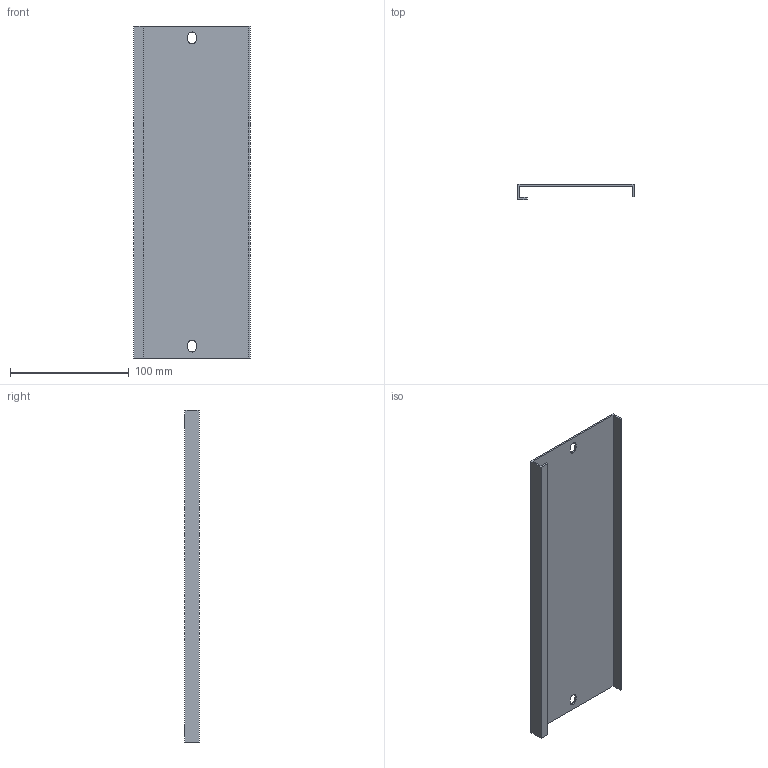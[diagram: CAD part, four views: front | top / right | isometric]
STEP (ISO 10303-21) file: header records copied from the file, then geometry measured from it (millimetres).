
FILE_DESCRIPTION (( 'STEP AP214' ), '1' );
FILE_NAME ('FO-00-PVS-010-040 Ïëàñòðîí ãëóõîé âíóòðåííèé 100õ400.STEP', '2025-08-26T10:39:59', ( '' ), ( '' ), 'SwSTEP 2.0', 'SolidWorks 2023', '' );
FILE_SCHEMA (( 'AUTOMOTIVE_DESIGN' ));
Length unit declared in the file: millimetre
Products named in the file (1): FO-00-PVS-010-040 Пластрон глухой внутренний 100х400
Bounding box: 98 x 12.5 x 279 mm (x, y, z)
Volume: 51715.5 mm3; surface area: 70247 mm2
Topology: 1 solids, 1 shells, 32 faces, 90 edges, 60 vertices
Faces by surface type: plane 26, cylinder 6
Entity records: 1057 total; most frequent: CARTESIAN_POINT 183, ORIENTED_EDGE 180, DIRECTION 168, EDGE_CURVE 90, VECTOR 78, LINE 78, VERTEX_POINT 60, AXIS2_PLACEMENT_3D 45
